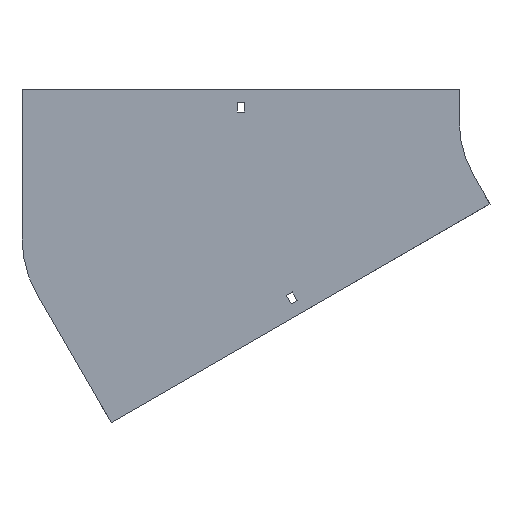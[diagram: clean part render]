
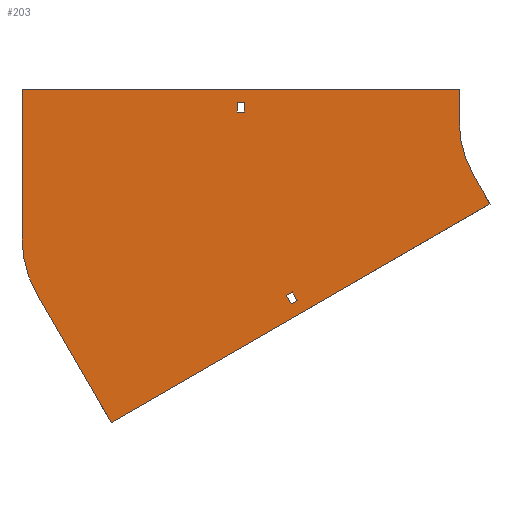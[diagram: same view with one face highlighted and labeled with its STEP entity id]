
A CAD part, front view. The second image highlights one B-rep face of the part: STEP entity #203.
In plain terms, the highlighted planar face has unit normal (0, -1, 0).
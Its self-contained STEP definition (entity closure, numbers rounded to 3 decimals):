
#47 = VERTEX_POINT ( 'NONE', #1799 ) ;
#63 = CARTESIAN_POINT ( 'NONE',  ( -490.603, 0., -158.251 ) ) ;
#113 = ORIENTED_EDGE ( 'NONE', *, *, #1654, .F. ) ;
#120 = LINE ( 'NONE', #1937, #779 ) ;
#123 = DIRECTION ( 'NONE',  ( 0.5, 0., -0.866 ) ) ;
#126 = VERTEX_POINT ( 'NONE', #748 ) ;
#137 = CARTESIAN_POINT ( 'NONE',  ( -504., 0., 30. ) ) ;
#145 = VECTOR ( 'NONE', #744, 1000. ) ;
#151 = CARTESIAN_POINT ( 'NONE',  ( -254.225, 0., -157.169 ) ) ;
#166 = CARTESIAN_POINT ( 'NONE',  ( -254.225, 0., -157.169 ) ) ;
#180 = VERTEX_POINT ( 'NONE', #513 ) ;
#183 = ORIENTED_EDGE ( 'NONE', *, *, #272, .T. ) ;
#203 = ADVANCED_FACE ( 'NONE', ( #1104, #1557, #642 ), #1525, .T. ) ;
#250 = VERTEX_POINT ( 'NONE', #1272 ) ;
#254 = ORIENTED_EDGE ( 'NONE', *, *, #647, .F. ) ;
#272 = EDGE_CURVE ( 'NONE', #180, #1460, #1119, .T. ) ;
#337 = EDGE_LOOP ( 'NONE', ( #570, #943, #1128, #113, #964, #1893, #254, #1089 ) ) ;
#346 = VECTOR ( 'NONE', #1088, 1000. ) ;
#347 = CARTESIAN_POINT ( 'NONE',  ( -255.354, 0., -168.213 ) ) ;
#352 = DIRECTION ( 'NONE',  ( 0., 0., 1. ) ) ;
#376 = VECTOR ( 'NONE', #1577, 1000. ) ;
#388 = CARTESIAN_POINT ( 'NONE',  ( -259.854, 0., -160.419 ) ) ;
#395 = DIRECTION ( 'NONE',  ( 0., 0., 1. ) ) ;
#402 = CARTESIAN_POINT ( 'NONE',  ( -298.75, 0., 9. ) ) ;
#408 = VERTEX_POINT ( 'NONE', #1302 ) ;
#409 = EDGE_CURVE ( 'NONE', #1460, #1086, #1583, .T. ) ;
#420 = EDGE_CURVE ( 'NONE', #698, #1560, #1133, .T. ) ;
#424 = CARTESIAN_POINT ( 'NONE',  ( -298.75, 0., 18. ) ) ;
#446 = EDGE_CURVE ( 'NONE', #786, #126, #120, .T. ) ;
#465 = VECTOR ( 'NONE', #1194, 1000. ) ;
#484 = DIRECTION ( 'NONE',  ( -0.5, 0., 0.866 ) ) ;
#502 = VERTEX_POINT ( 'NONE', #151 ) ;
#506 = CARTESIAN_POINT ( 'NONE',  ( -504., 0., -108.251 ) ) ;
#513 = CARTESIAN_POINT ( 'NONE',  ( -305.25, 0., 9. ) ) ;
#546 = EDGE_CURVE ( 'NONE', #47, #786, #1018, .T. ) ;
#564 = VERTEX_POINT ( 'NONE', #1699 ) ;
#570 = ORIENTED_EDGE ( 'NONE', *, *, #1397, .F. ) ;
#574 = DIRECTION ( 'NONE',  ( 1., 0., 0. ) ) ;
#585 = LINE ( 'NONE', #888, #1760 ) ;
#642 = FACE_BOUND ( 'NONE', #1091, .T. ) ;
#647 = EDGE_CURVE ( 'NONE', #564, #47, #683, .T. ) ;
#670 = DIRECTION ( 'NONE',  ( 0., 0., -1. ) ) ;
#680 = LINE ( 'NONE', #1880, #1164 ) ;
#683 = CIRCLE ( 'NONE', #1185, 100. ) ;
#686 = CARTESIAN_POINT ( 'NONE',  ( -305.25, 0., 18. ) ) ;
#698 = VERTEX_POINT ( 'NONE', #63 ) ;
#739 = CARTESIAN_POINT ( 'NONE',  ( -259.854, 0., -160.419 ) ) ;
#744 = DIRECTION ( 'NONE',  ( 0.5, 0., -0.866 ) ) ;
#748 = CARTESIAN_POINT ( 'NONE',  ( -421.477, 0., -277.981 ) ) ;
#778 = CARTESIAN_POINT ( 'NONE',  ( -305.25, 0., 9. ) ) ;
#779 = VECTOR ( 'NONE', #871, 1000. ) ;
#781 = ORIENTED_EDGE ( 'NONE', *, *, #1625, .F. ) ;
#786 = VERTEX_POINT ( 'NONE', #1043 ) ;
#797 = VERTEX_POINT ( 'NONE', #1622 ) ;
#811 = LINE ( 'NONE', #1416, #850 ) ;
#834 = DIRECTION ( 'NONE',  ( 1., 0., 0. ) ) ;
#850 = VECTOR ( 'NONE', #1836, 1000. ) ;
#857 = VERTEX_POINT ( 'NONE', #402 ) ;
#866 = CARTESIAN_POINT ( 'NONE',  ( -504., 0., -108.251 ) ) ;
#871 = DIRECTION ( 'NONE',  ( -0.866, 0., -0.5 ) ) ;
#874 = LINE ( 'NONE', #739, #1670 ) ;
#877 = CARTESIAN_POINT ( 'NONE',  ( -305.25, 0., 18. ) ) ;
#888 = CARTESIAN_POINT ( 'NONE',  ( -255.354, 0., -168.213 ) ) ;
#890 = VECTOR ( 'NONE', #352, 1000. ) ;
#908 = ORIENTED_EDGE ( 'NONE', *, *, #1008, .F. ) ;
#922 = DIRECTION ( 'NONE',  ( 0.866, 0., 0.5 ) ) ;
#943 = ORIENTED_EDGE ( 'NONE', *, *, #1485, .F. ) ;
#944 = AXIS2_PLACEMENT_3D ( 'NONE', #1263, #1384, #670 ) ;
#964 = ORIENTED_EDGE ( 'NONE', *, *, #446, .F. ) ;
#984 = CARTESIAN_POINT ( 'NONE',  ( -421.477, 0., -277.981 ) ) ;
#991 = AXIS2_PLACEMENT_3D ( 'NONE', #1147, #1746, #395 ) ;
#1008 = EDGE_CURVE ( 'NONE', #1255, #408, #585, .T. ) ;
#1018 = LINE ( 'NONE', #1621, #145 ) ;
#1036 = DIRECTION ( 'NONE',  ( -1., 0., 0. ) ) ;
#1043 = CARTESIAN_POINT ( 'NONE',  ( -71.603, 0., -75.981 ) ) ;
#1047 = LINE ( 'NONE', #1469, #1257 ) ;
#1086 = VERTEX_POINT ( 'NONE', #424 ) ;
#1088 = DIRECTION ( 'NONE',  ( -0.866, 0., -0.5 ) ) ;
#1089 = ORIENTED_EDGE ( 'NONE', *, *, #1711, .F. ) ;
#1090 = DIRECTION ( 'NONE',  ( 0., 0., -1. ) ) ;
#1091 = EDGE_LOOP ( 'NONE', ( #908, #1676, #1590, #781 ) ) ;
#1104 = FACE_BOUND ( 'NONE', #1768, .T. ) ;
#1119 = LINE ( 'NONE', #778, #890 ) ;
#1128 = ORIENTED_EDGE ( 'NONE', *, *, #420, .F. ) ;
#1133 = CIRCLE ( 'NONE', #991, 100. ) ;
#1136 = VECTOR ( 'NONE', #484, 1000. ) ;
#1147 = CARTESIAN_POINT ( 'NONE',  ( -404., 0., -108.251 ) ) ;
#1164 = VECTOR ( 'NONE', #1285, 1000. ) ;
#1184 = EDGE_CURVE ( 'NONE', #502, #1716, #1377, .T. ) ;
#1185 = AXIS2_PLACEMENT_3D ( 'NONE', #1261, #1682, #1090 ) ;
#1194 = DIRECTION ( 'NONE',  ( 0., 0., 1. ) ) ;
#1235 = EDGE_CURVE ( 'NONE', #1086, #857, #811, .T. ) ;
#1255 = VERTEX_POINT ( 'NONE', #347 ) ;
#1257 = VECTOR ( 'NONE', #1036, 1000. ) ;
#1261 = CARTESIAN_POINT ( 'NONE',  ( 0., 0., 0. ) ) ;
#1263 = CARTESIAN_POINT ( 'NONE',  ( 0., 0., 0. ) ) ;
#1272 = CARTESIAN_POINT ( 'NONE',  ( -100., 0., 30. ) ) ;
#1285 = DIRECTION ( 'NONE',  ( 0., 0., -1. ) ) ;
#1302 = CARTESIAN_POINT ( 'NONE',  ( -249.725, 0., -164.963 ) ) ;
#1377 = LINE ( 'NONE', #1408, #346 ) ;
#1384 = DIRECTION ( 'NONE',  ( 0., -1., 0. ) ) ;
#1397 = EDGE_CURVE ( 'NONE', #797, #250, #1479, .T. ) ;
#1408 = CARTESIAN_POINT ( 'NONE',  ( -259.854, 0., -160.419 ) ) ;
#1415 = VECTOR ( 'NONE', #574, 1000. ) ;
#1416 = CARTESIAN_POINT ( 'NONE',  ( -298.75, 0., 9. ) ) ;
#1460 = VERTEX_POINT ( 'NONE', #877 ) ;
#1469 = CARTESIAN_POINT ( 'NONE',  ( -305.25, 0., 9. ) ) ;
#1479 = LINE ( 'NONE', #137, #1415 ) ;
#1485 = EDGE_CURVE ( 'NONE', #1560, #797, #1810, .T. ) ;
#1505 = EDGE_CURVE ( 'NONE', #857, #180, #1047, .T. ) ;
#1525 = PLANE ( 'NONE',  #944 ) ;
#1547 = VECTOR ( 'NONE', #834, 1000. ) ;
#1553 = LINE ( 'NONE', #166, #1136 ) ;
#1557 = FACE_OUTER_BOUND ( 'NONE', #337, .T. ) ;
#1560 = VERTEX_POINT ( 'NONE', #506 ) ;
#1577 = DIRECTION ( 'NONE',  ( -0.5, 0., 0.866 ) ) ;
#1583 = LINE ( 'NONE', #686, #1547 ) ;
#1590 = ORIENTED_EDGE ( 'NONE', *, *, #1184, .F. ) ;
#1621 = CARTESIAN_POINT ( 'NONE',  ( -86.603, 0., -50. ) ) ;
#1622 = CARTESIAN_POINT ( 'NONE',  ( -504., 0., 30. ) ) ;
#1625 = EDGE_CURVE ( 'NONE', #408, #502, #1553, .T. ) ;
#1650 = ORIENTED_EDGE ( 'NONE', *, *, #409, .T. ) ;
#1654 = EDGE_CURVE ( 'NONE', #126, #698, #1695, .T. ) ;
#1670 = VECTOR ( 'NONE', #123, 1000. ) ;
#1676 = ORIENTED_EDGE ( 'NONE', *, *, #1855, .F. ) ;
#1682 = DIRECTION ( 'NONE',  ( 0., -1., 0. ) ) ;
#1695 = LINE ( 'NONE', #984, #376 ) ;
#1699 = CARTESIAN_POINT ( 'NONE',  ( -100., 0., 0. ) ) ;
#1711 = EDGE_CURVE ( 'NONE', #250, #564, #680, .T. ) ;
#1716 = VERTEX_POINT ( 'NONE', #388 ) ;
#1746 = DIRECTION ( 'NONE',  ( 0., 1., 0. ) ) ;
#1760 = VECTOR ( 'NONE', #922, 1000. ) ;
#1768 = EDGE_LOOP ( 'NONE', ( #183, #1650, #1828, #1899 ) ) ;
#1799 = CARTESIAN_POINT ( 'NONE',  ( -86.603, 0., -50. ) ) ;
#1810 = LINE ( 'NONE', #866, #465 ) ;
#1828 = ORIENTED_EDGE ( 'NONE', *, *, #1235, .T. ) ;
#1836 = DIRECTION ( 'NONE',  ( 0., 0., -1. ) ) ;
#1855 = EDGE_CURVE ( 'NONE', #1716, #1255, #874, .T. ) ;
#1880 = CARTESIAN_POINT ( 'NONE',  ( -100., 0., 30. ) ) ;
#1893 = ORIENTED_EDGE ( 'NONE', *, *, #546, .F. ) ;
#1899 = ORIENTED_EDGE ( 'NONE', *, *, #1505, .T. ) ;
#1937 = CARTESIAN_POINT ( 'NONE',  ( -71.603, 0., -75.981 ) ) ;
